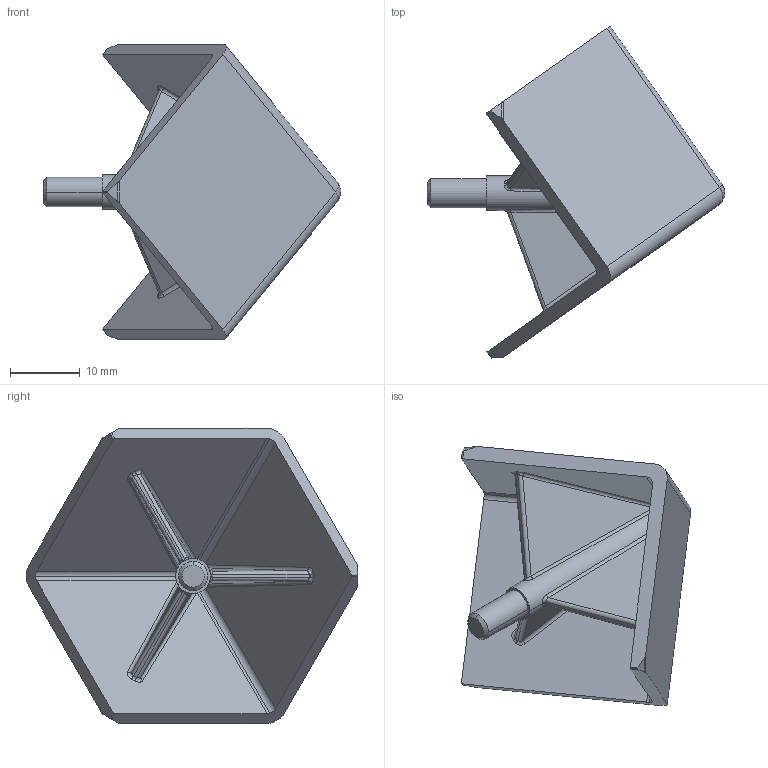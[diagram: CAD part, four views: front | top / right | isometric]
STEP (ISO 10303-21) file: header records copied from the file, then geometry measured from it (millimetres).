
FILE_DESCRIPTION (( 'STEP AP203' ), '1' );
FILE_NAME ('321185_Abdeckkappe für Eckwinkel 30 Eckform.step', '2018-11-27T10:51:30', ( '' ), ( '' ), 'SwSTEP 2.0', 'SolidWorks 2017', '' );
FILE_SCHEMA (( 'CONFIG_CONTROL_DESIGN' ));
Length unit declared in the file: millimetre
Products named in the file (1): 321185_Abdeckkappe f黵 Eckwinkel 30 Eckform
Bounding box: 42.77 x 47.69 x 42.43 mm (x, y, z)
Volume: 6650.1 mm3; surface area: 6710.6 mm2
Topology: 1 solids, 1 shells, 91 faces, 245 edges, 156 vertices
Faces by surface type: cylinder 38, bspline 28, plane 23, cone 2
Entity records: 3771 total; most frequent: CARTESIAN_POINT 1673, ORIENTED_EDGE 488, DIRECTION 341, EDGE_CURVE 244, VERTEX_POINT 156, AXIS2_PLACEMENT_3D 125, EDGE_LOOP 92, VECTOR 91
